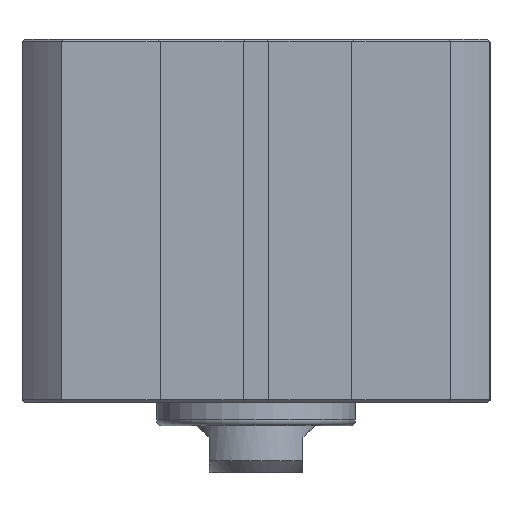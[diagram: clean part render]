
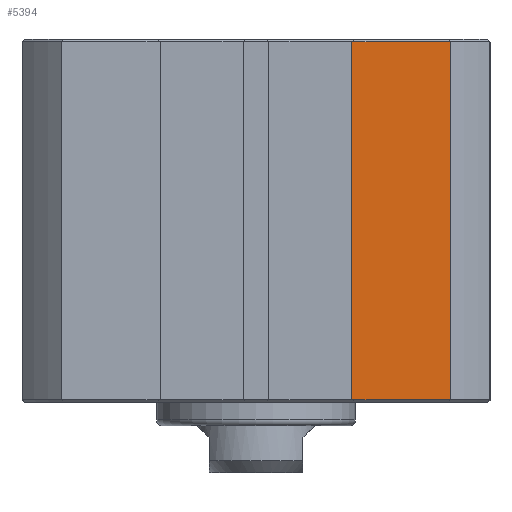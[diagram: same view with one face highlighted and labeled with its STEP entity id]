
A CAD part, top view. The second image highlights one B-rep face of the part: STEP entity #5394.
In plain terms, the highlighted planar face has unit normal (0, 0, 1).
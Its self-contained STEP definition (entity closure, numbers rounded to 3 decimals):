
#301=LINE('',#7411,#651);
#304=LINE('',#7417,#654);
#305=LINE('',#7420,#655);
#306=LINE('',#7421,#656);
#651=VECTOR('',#6281,1000.);
#654=VECTOR('',#6286,1000.);
#655=VECTOR('',#6287,1000.);
#656=VECTOR('',#6288,1000.);
#1115=ORIENTED_EDGE('',*,*,#2072,.F.);
#1116=ORIENTED_EDGE('',*,*,#2073,.T.);
#1117=ORIENTED_EDGE('',*,*,#2069,.T.);
#1118=ORIENTED_EDGE('',*,*,#2074,.T.);
#2069=EDGE_CURVE('',#2560,#2561,#301,.T.);
#2072=EDGE_CURVE('',#2562,#2563,#304,.T.);
#2073=EDGE_CURVE('',#2562,#2560,#305,.T.);
#2074=EDGE_CURVE('',#2561,#2563,#306,.T.);
#2560=VERTEX_POINT('',#7412);
#2561=VERTEX_POINT('',#7413);
#2562=VERTEX_POINT('',#7418);
#2563=VERTEX_POINT('',#7419);
#2871=EDGE_LOOP('',(#1115,#1116,#1117,#1118));
#3191=FACE_BOUND('',#2871,.T.);
#3448=PLANE('',#5706);
#5394=ADVANCED_FACE('',(#3191),#3448,.F.);
#5706=AXIS2_PLACEMENT_3D('',#7416,#6284,#6285);
#6281=DIRECTION('',(0.,-1.,0.));
#6284=DIRECTION('',(0.,0.,-1.));
#6285=DIRECTION('',(-1.,0.,0.));
#6286=DIRECTION('',(0.,-1.,0.));
#6287=DIRECTION('',(-1.,0.,0.));
#6288=DIRECTION('',(1.,0.,0.));
#7411=CARTESIAN_POINT('',(8.2,31.,20.));
#7412=CARTESIAN_POINT('',(8.2,30.8,20.));
#7413=CARTESIAN_POINT('',(8.2,0.2,20.));
#7416=CARTESIAN_POINT('',(8.2,31.,20.));
#7417=CARTESIAN_POINT('',(16.613,31.,20.));
#7418=CARTESIAN_POINT('',(16.613,30.8,20.));
#7419=CARTESIAN_POINT('',(16.613,0.2,20.));
#7420=CARTESIAN_POINT('',(8.2,30.8,20.));
#7421=CARTESIAN_POINT('',(8.2,0.2,20.));
